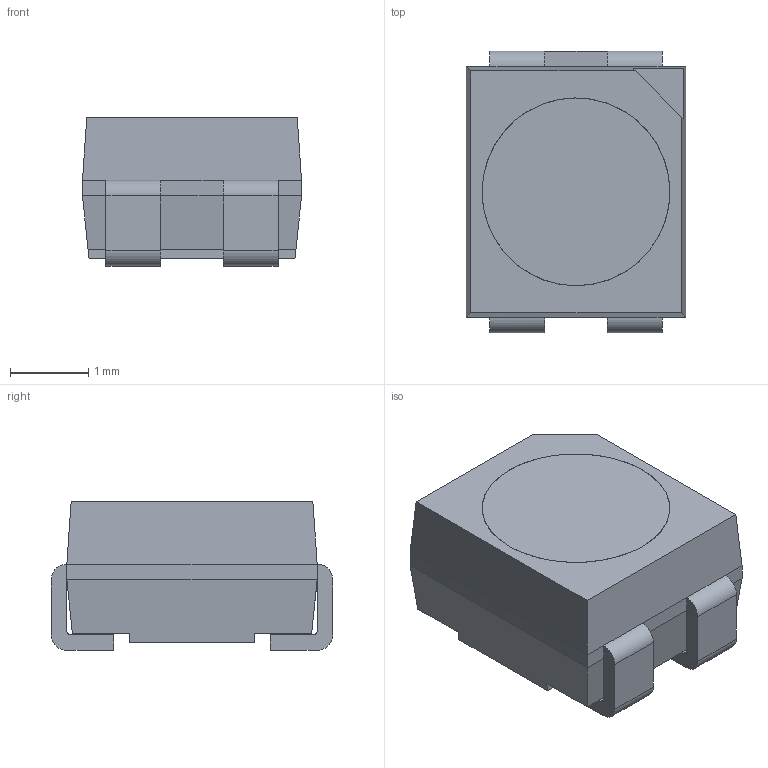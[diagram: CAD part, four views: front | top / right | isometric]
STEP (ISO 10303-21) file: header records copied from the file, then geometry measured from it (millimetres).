
FILE_DESCRIPTION(('STEP AP203'),'1');
FILE_NAME('C:/Users/chee-cheong.chan/Desktop/New folder/DWA-HJS.stp','2019-09-20T08:38:33',(' '),(' '),'Spatial InterOp 3D',' ',' ');
FILE_SCHEMA(('CONFIG_CONTROL_DESIGN'));
Length unit declared in the file: millimetre
Products named in the file (1): 1
Bounding box: 2.8 x 3.6 x 1.9 mm (x, y, z)
Volume: 15.7 mm3; surface area: 60.4 mm2
Topology: 1 solids, 1 shells, 93 faces, 248 edges, 158 vertices
Faces by surface type: plane 69, cone 12, cylinder 12
Entity records: 2919 total; most frequent: CARTESIAN_POINT 527, ORIENTED_EDGE 496, DIRECTION 483, EDGE_CURVE 248, LINE 183, VECTOR 183, VERTEX_POINT 158, AXIS2_PLACEMENT_3D 150
